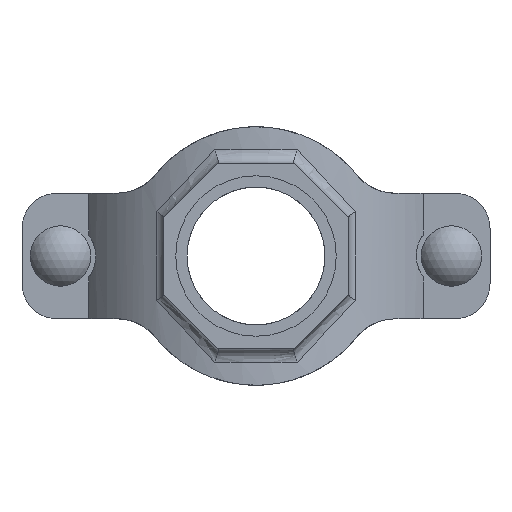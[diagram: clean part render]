
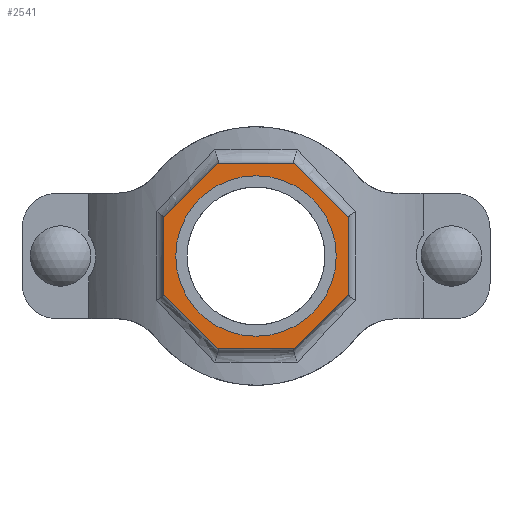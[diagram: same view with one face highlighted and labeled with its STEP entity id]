
A CAD part, front view. The second image highlights one B-rep face of the part: STEP entity #2541.
In plain terms, the highlighted planar face has unit normal (0, -1, 0) as drawn and (0, 1, 0) by its records, which use the part's own axes.
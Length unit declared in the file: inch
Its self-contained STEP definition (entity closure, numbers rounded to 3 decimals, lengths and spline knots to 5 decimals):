
#188=FACE_BOUND('',#463,.T.);
#309=FACE_OUTER_BOUND('',#462,.T.);
#462=EDGE_LOOP('',(#2162,#2163,#2164,#2165,#2166,#2167,#2168,#2169));
#463=EDGE_LOOP('',(#2170));
#594=LINE('',#4777,#780);
#597=LINE('',#4782,#783);
#599=LINE('',#4786,#785);
#601=LINE('',#4790,#787);
#645=LINE('',#5231,#831);
#647=LINE('',#5235,#833);
#649=LINE('',#5239,#835);
#651=LINE('',#5242,#837);
#780=VECTOR('',#3278,0.3937);
#783=VECTOR('',#3283,0.3937);
#785=VECTOR('',#3287,0.3937);
#787=VECTOR('',#3291,0.3937);
#831=VECTOR('',#3443,0.3937);
#833=VECTOR('',#3447,0.3937);
#835=VECTOR('',#3451,0.3937);
#837=VECTOR('',#3455,0.3937);
#923=CIRCLE('',#2808,1.4375);
#1097=VERTEX_POINT('',#4774);
#1098=VERTEX_POINT('',#4776);
#1099=VERTEX_POINT('',#4780);
#1100=VERTEX_POINT('',#4784);
#1101=VERTEX_POINT('',#4788);
#1144=VERTEX_POINT('',#5080);
#1166=VERTEX_POINT('',#5230);
#1167=VERTEX_POINT('',#5234);
#1168=VERTEX_POINT('',#5238);
#1408=EDGE_CURVE('',#1098,#1097,#594,.T.);
#1411=EDGE_CURVE('',#1097,#1099,#597,.T.);
#1413=EDGE_CURVE('',#1099,#1100,#599,.T.);
#1415=EDGE_CURVE('',#1100,#1101,#601,.T.);
#1471=EDGE_CURVE('',#1144,#1144,#923,.T.);
#1503=EDGE_CURVE('',#1166,#1098,#645,.T.);
#1505=EDGE_CURVE('',#1167,#1166,#647,.T.);
#1507=EDGE_CURVE('',#1168,#1167,#649,.T.);
#1509=EDGE_CURVE('',#1101,#1168,#651,.T.);
#2162=ORIENTED_EDGE('',*,*,#1509,.T.);
#2163=ORIENTED_EDGE('',*,*,#1507,.T.);
#2164=ORIENTED_EDGE('',*,*,#1505,.T.);
#2165=ORIENTED_EDGE('',*,*,#1503,.T.);
#2166=ORIENTED_EDGE('',*,*,#1408,.T.);
#2167=ORIENTED_EDGE('',*,*,#1411,.T.);
#2168=ORIENTED_EDGE('',*,*,#1413,.T.);
#2169=ORIENTED_EDGE('',*,*,#1415,.T.);
#2170=ORIENTED_EDGE('',*,*,#1471,.T.);
#2282=PLANE('',#2831);
#2541=ADVANCED_FACE('',(#309,#188),#2282,.T.);
#2808=AXIS2_PLACEMENT_3D('',#5081,#3387,#3388);
#2831=AXIS2_PLACEMENT_3D('',#5243,#3456,#3457);
#3278=DIRECTION('',(0.,0.,1.));
#3283=DIRECTION('',(0.707,0.,0.707));
#3287=DIRECTION('',(1.,0.,0.));
#3291=DIRECTION('',(0.707,0.,-0.707));
#3387=DIRECTION('center_axis',(0.,-1.,0.));
#3388=DIRECTION('ref_axis',(-1.,0.,0.));
#3443=DIRECTION('',(-0.707,0.,0.707));
#3447=DIRECTION('',(-1.,0.,0.));
#3451=DIRECTION('',(-0.707,0.,-0.707));
#3455=DIRECTION('',(0.,0.,-1.));
#3456=DIRECTION('center_axis',(0.,1.,0.));
#3457=DIRECTION('ref_axis',(0.,0.,1.));
#4774=CARTESIAN_POINT('',(-1.65625,4.75,0.68604));
#4776=CARTESIAN_POINT('',(-1.65625,4.75,-0.68604));
#4777=CARTESIAN_POINT('',(-1.65625,4.75,0.68604));
#4780=CARTESIAN_POINT('',(-0.68604,4.75,1.65625));
#4782=CARTESIAN_POINT('',(-0.68604,4.75,1.65625));
#4784=CARTESIAN_POINT('',(0.68604,4.75,1.65625));
#4786=CARTESIAN_POINT('',(0.68604,4.75,1.65625));
#4788=CARTESIAN_POINT('',(1.65625,4.75,0.68604));
#4790=CARTESIAN_POINT('',(1.65625,4.75,0.68604));
#5080=CARTESIAN_POINT('',(1.4375,4.75,0.));
#5081=CARTESIAN_POINT('Origin',(0.,4.75,0.));
#5230=CARTESIAN_POINT('',(-0.68604,4.75,-1.65625));
#5231=CARTESIAN_POINT('',(-1.65625,4.75,-0.68604));
#5234=CARTESIAN_POINT('',(0.68604,4.75,-1.65625));
#5235=CARTESIAN_POINT('',(-0.68604,4.75,-1.65625));
#5238=CARTESIAN_POINT('',(1.65625,4.75,-0.68604));
#5239=CARTESIAN_POINT('',(0.68604,4.75,-1.65625));
#5242=CARTESIAN_POINT('',(1.65625,4.75,-0.68604));
#5243=CARTESIAN_POINT('Origin',(0.,4.75,0.));
